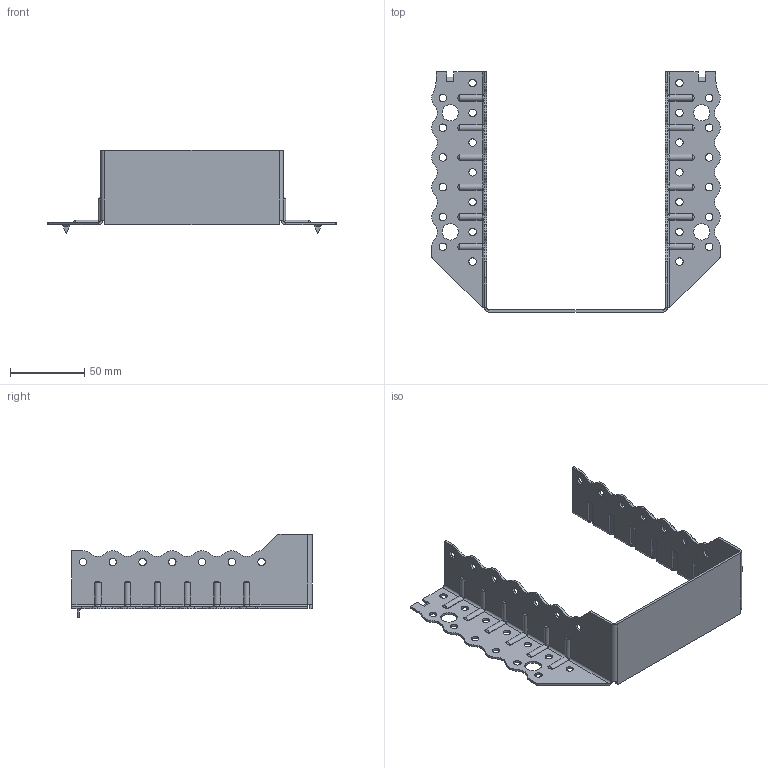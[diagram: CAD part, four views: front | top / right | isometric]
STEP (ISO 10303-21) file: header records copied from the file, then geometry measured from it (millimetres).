
FILE_DESCRIPTION (( 'STEP AP203' ), '1' );
FILE_NAME ('30511TOPK.STEP', '2021-04-08T12:52:33', ( '' ), ( '' ), 'SwSTEP 2.0', 'SolidWorks 2013', '' );
FILE_SCHEMA (( 'CONFIG_CONTROL_DESIGN' ));
Length unit declared in the file: millimetre
Products named in the file (1): 30511TOPK
Bounding box: 194 x 161.5 x 56 mm (x, y, z)
Volume: 40365.2 mm3; surface area: 57666.8 mm2
Topology: 1 solids, 1 shells, 496 faces, 1342 edges, 848 vertices
Faces by surface type: cylinder 315, plane 133, torus 24, bspline 24
Entity records: 18521 total; most frequent: CARTESIAN_POINT 5917, ORIENTED_EDGE 2684, DIRECTION 2582, EDGE_CURVE 1342, AXIS2_PLACEMENT_3D 943, VERTEX_POINT 848, VECTOR 696, LINE 696
